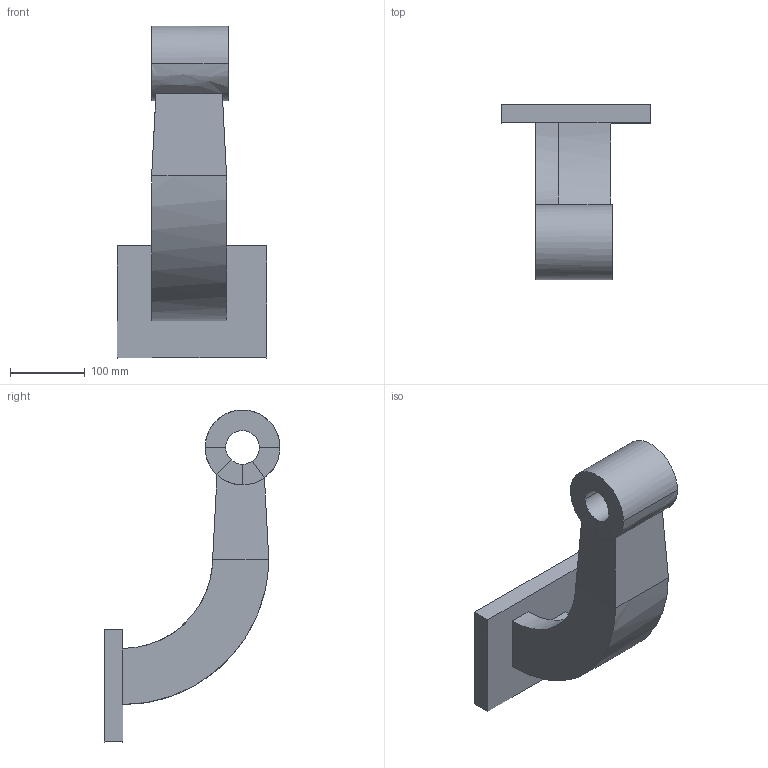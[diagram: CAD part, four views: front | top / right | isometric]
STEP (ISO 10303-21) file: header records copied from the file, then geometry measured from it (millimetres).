
FILE_DESCRIPTION(('CAx-IF Rec.Pracs.---Model Styling and Organization---1.2---2011-12-15','CAx-IF Rec.Pracs.---Geometric and Assembly Validation Properties---4.1---2014-06-16','CAx-IF Rec.Pracs.---PMI Polyline Presentation---2.0---2013-05-24'),'2;1');
FILE_NAME('arm_bracket.stp','2019-03-26T11:56:32+03:00',(' '),(' '),'HyperWorksVersion-2017.3.0.17','3D_Kernel_IO2018 Sp1 by CT CoreTechnologie',' ');
FILE_SCHEMA(('AUTOMOTIVE_DESIGN { 1 0 10303 214 1 1 1 1 }'));
Length unit declared in the file: millimetre
Products named in the file (5): arm_bracket; base; arm_curve; arm_straight; boss
Assembly tree (4 placements, depth 2):
  arm_bracket
    base
    arm_curve
    arm_straight
    boss
Bounding box: 200 x 234.98 x 443.33 mm (x, y, z)
Surface area: 260954.6 mm2 (no closed solid volume)
Topology: 0 solids, 5 shells, 32 faces, 114 edges, 87 vertices
Faces by surface type: bspline 27, plane 5
Entity records: 3153 total; most frequent: CARTESIAN_POINT 1924, ORIENTED_EDGE 186, DIRECTION 139, EDGE_CURVE 114, VERTEX_POINT 87, VECTOR 75, LINE 75, EDGE_LOOP 35
